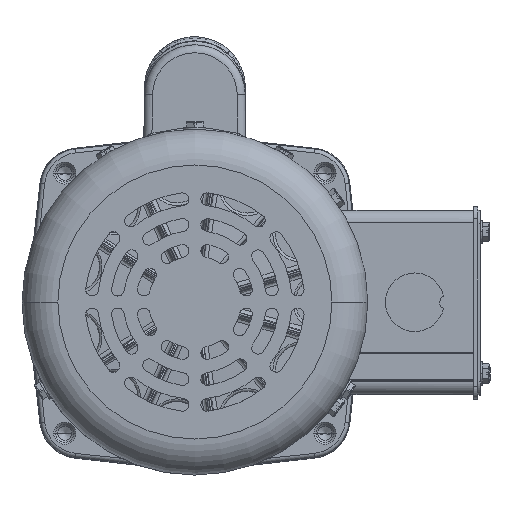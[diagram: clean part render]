
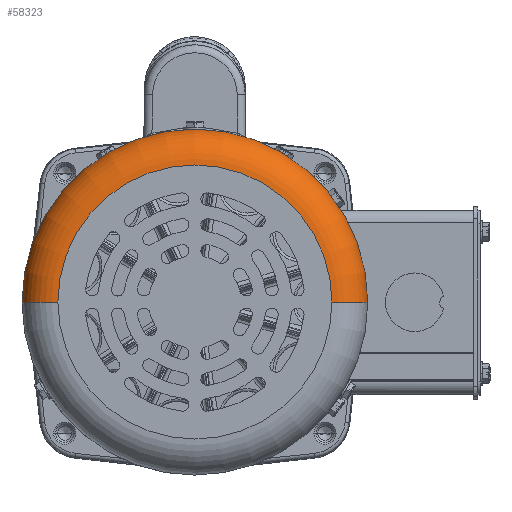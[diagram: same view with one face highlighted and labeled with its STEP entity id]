
A CAD part, top view. The second image highlights one B-rep face of the part: STEP entity #58323.
In plain terms, the highlighted toroidal (fillet/blend) face has major radius 51.943 mm and minor radius 13.589 mm.
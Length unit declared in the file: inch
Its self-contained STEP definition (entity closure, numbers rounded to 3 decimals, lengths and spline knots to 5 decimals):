
#1198 = DIRECTION ( 'NONE',  ( 0., -1., 0. ) ) ;
#11914 = CIRCLE ( 'NONE', #60694, 2.045 ) ;
#15041 = VERTEX_POINT ( 'NONE', #50441 ) ;
#17737 = FACE_OUTER_BOUND ( 'NONE', #119534, .T. ) ;
#22272 = CARTESIAN_POINT ( 'NONE',  ( 0., 0., 9.8415 ) ) ;
#27584 = CIRCLE ( 'NONE', #97914, 0.535 ) ;
#28437 = CARTESIAN_POINT ( 'NONE',  ( 0., 0., 10.3765 ) ) ;
#33977 = DIRECTION ( 'NONE',  ( 1., 0., 0. ) ) ;
#40150 = DIRECTION ( 'NONE',  ( 1., 0., 0. ) ) ;
#40179 = DIRECTION ( 'NONE',  ( 1., 0., 0. ) ) ;
#43065 = CIRCLE ( 'NONE', #103605, 2.58 ) ;
#50441 = CARTESIAN_POINT ( 'NONE',  ( 2.58, 0., 9.8415 ) ) ;
#58323 = ADVANCED_FACE ( 'NONE', ( #17737 ), #79805, .T. ) ;
#58835 = ORIENTED_EDGE ( 'NONE', *, *, #122287, .T. ) ;
#58919 = DIRECTION ( 'NONE',  ( 0., 1., 0. ) ) ;
#58959 = VERTEX_POINT ( 'NONE', #97122 ) ;
#60694 = AXIS2_PLACEMENT_3D ( 'NONE', #28437, #110003, #40150 ) ;
#63111 = DIRECTION ( 'NONE',  ( 0., 0., 1. ) ) ;
#69287 = EDGE_CURVE ( 'NONE', #100812, #15041, #43065, .T. ) ;
#70281 = EDGE_CURVE ( 'NONE', #58959, #73619, #11914, .T. ) ;
#71096 = CARTESIAN_POINT ( 'NONE',  ( 2.045, 0., 9.8415 ) ) ;
#73619 = VERTEX_POINT ( 'NONE', #131722 ) ;
#79805 = TOROIDAL_SURFACE ( 'NONE', #111159, 2.045, 0.535 ) ;
#82832 = DIRECTION ( 'NONE',  ( 0., 0., -1. ) ) ;
#86665 = AXIS2_PLACEMENT_3D ( 'NONE', #128763, #58919, #140452 ) ;
#97122 = CARTESIAN_POINT ( 'NONE',  ( 2.045, 0., 10.3765 ) ) ;
#97914 = AXIS2_PLACEMENT_3D ( 'NONE', #71096, #1198, #82832 ) ;
#100812 = VERTEX_POINT ( 'NONE', #132891 ) ;
#103605 = AXIS2_PLACEMENT_3D ( 'NONE', #22272, #103830, #33977 ) ;
#103830 = DIRECTION ( 'NONE',  ( 0., 0., -1. ) ) ;
#110003 = DIRECTION ( 'NONE',  ( 0., 0., 1. ) ) ;
#110035 = CARTESIAN_POINT ( 'NONE',  ( 0., 0., 9.8415 ) ) ;
#111159 = AXIS2_PLACEMENT_3D ( 'NONE', #110035, #63111, #40179 ) ;
#119534 = EDGE_LOOP ( 'NONE', ( #143036, #58835, #143247, #150554 ) ) ;
#122287 = EDGE_CURVE ( 'NONE', #100812, #73619, #139334, .T. ) ;
#128763 = CARTESIAN_POINT ( 'NONE',  ( -2.045, 0., 9.8415 ) ) ;
#131722 = CARTESIAN_POINT ( 'NONE',  ( -2.045, 0., 10.3765 ) ) ;
#132891 = CARTESIAN_POINT ( 'NONE',  ( -2.58, 0., 9.8415 ) ) ;
#139334 = CIRCLE ( 'NONE', #86665, 0.535 ) ;
#140452 = DIRECTION ( 'NONE',  ( -1., 0., 0. ) ) ;
#143036 = ORIENTED_EDGE ( 'NONE', *, *, #69287, .F. ) ;
#143247 = ORIENTED_EDGE ( 'NONE', *, *, #70281, .F. ) ;
#146769 = EDGE_CURVE ( 'NONE', #15041, #58959, #27584, .T. ) ;
#150554 = ORIENTED_EDGE ( 'NONE', *, *, #146769, .F. ) ;
